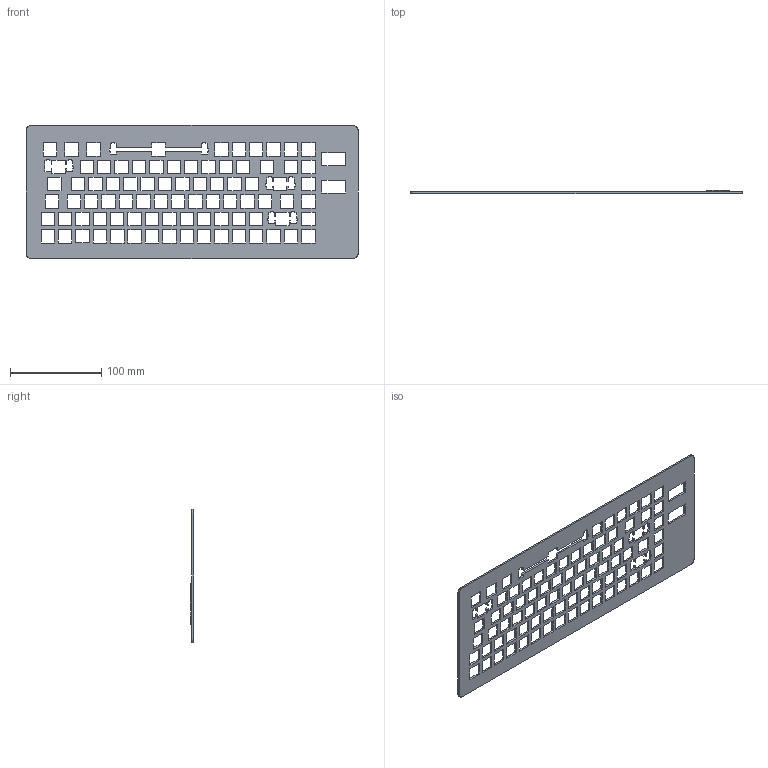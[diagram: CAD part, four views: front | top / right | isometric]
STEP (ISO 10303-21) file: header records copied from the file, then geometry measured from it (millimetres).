
FILE_DESCRIPTION(/* description */ ('STEP AP242','CAx-IF Rec.Pracs.---Representation and Presentation of Product Manufacturing Information (PMI)---4.0---2014-10-13','CAx-IF Rec.Pracs.---3D Tessellated Geometry---0.4---2014-09-14','2;1'),/* implementation_level */ '2;1');
FILE_NAME(/* name */ '689e845c3b3e5368d31ebe5d',/* time_stamp */ '2025-08-15T00:50:37Z',/* author */ (''),/* organization */ (''),/* preprocessor_version */ 'ST-DEVELOPER v20',/* originating_system */ 'ONSHAPE BY PTC INC, 1.202',/* authorisation */ ' ');
FILE_SCHEMA (('AP242_MANAGED_MODEL_BASED_3D_ENGINEERING_MIM_LF { 1 0 10303 442 1 1 4 }'));
Length unit declared in the file: metre
Products named in the file (1): Part 1
Bounding box: 364.02 x 4 x 146.04 mm (x, y, z)
Volume: 66813.4 mm3; surface area: 79854 mm2
Topology: 1 solids, 1 shells, 516 faces, 1530 edges, 1020 vertices
Faces by surface type: plane 512, cylinder 4
Entity records: 20882 total; most frequent: CARTESIAN_POINT 3067, ORIENTED_EDGE 3060, DIRECTION 2572, EDGE_CURVE 1530, LINE 1522, VECTOR 1522, VERTEX_POINT 1020, EDGE_LOOP 692
